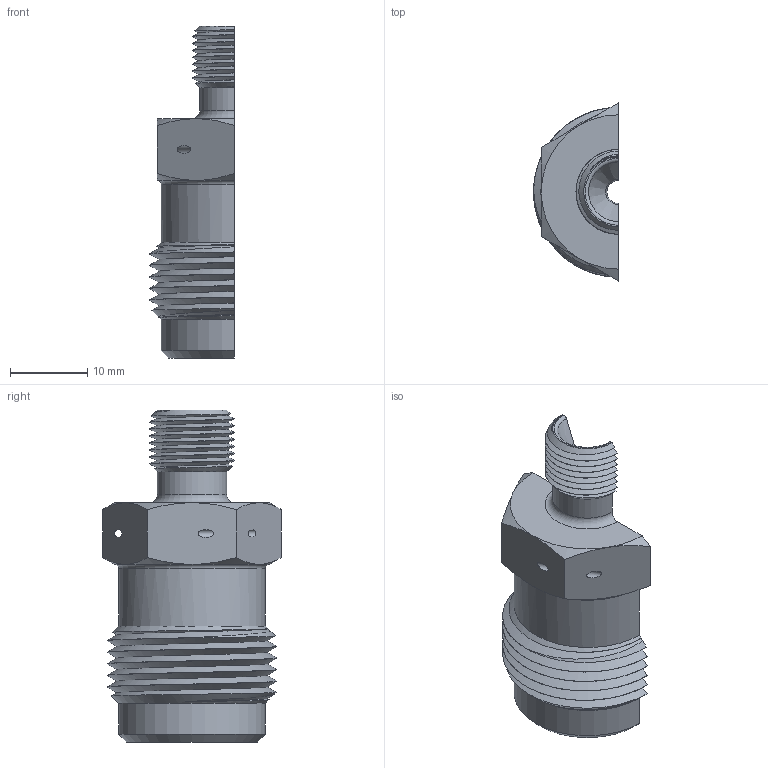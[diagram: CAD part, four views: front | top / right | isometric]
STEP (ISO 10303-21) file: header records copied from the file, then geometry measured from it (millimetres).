
FILE_DESCRIPTION(/* description */ ('CAx-IF Rec.Pracs.---Representation and Presentation of Product Manufacturing Information (PMI)---4.0---2014-10-13','CAx-IF Rec.Pracs.---3D Tessellated Geometry---0.4---2014-09-14','2;1'),/* implementation_level */ '2;1');
FILE_NAME(/* name */ 'czesc_gwintowana_SR_section1',/* time_stamp */ '2020-03-20T17:50:21+01:00',/* author */ (''),/* organization */ (''),/* preprocessor_version */ 'ST-DEVELOPER v16.7',/* originating_system */ 'SIEMENS PLM Software NX 1847',/* authorisation */ $);
FILE_SCHEMA (('AP242_MANAGED_MODEL_BASED_3D_ENGINEERING_MIM_LF { 1 0 10303 442 1 1 4 }'));
Length unit declared in the file: millimetre
Products named in the file (1): czesc_gwintowana_SR_section1
Bounding box: 11 x 23.09 x 43 mm (x, y, z)
Volume: 3519.7 mm3; surface area: 2832.2 mm2
Topology: 1 solids, 1 shells, 100 faces, 291 edges, 193 vertices
Faces by surface type: cylinder 37, bspline 33, cone 17, plane 9, torus 4
Full cylindrical faces by diameter (mm): 1 x2
Entity records: 5047 total; most frequent: CARTESIAN_POINT 1945, ORIENTED_EDGE 574, DIRECTION 342, EDGE_CURVE 287, VERTEX_POINT 191, B_SPLINE_CURVE_WITH_KNOTS 141, AXIS2_PLACEMENT_3D 128, EDGE_LOOP 106
